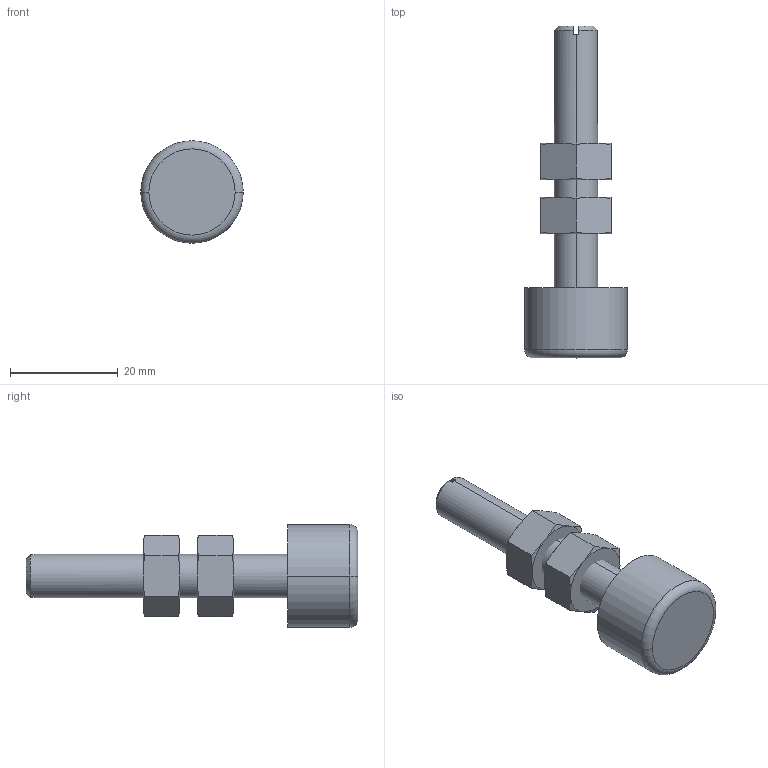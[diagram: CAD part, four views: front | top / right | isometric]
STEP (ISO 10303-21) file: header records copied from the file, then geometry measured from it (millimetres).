
FILE_DESCRIPTION (( 'STEP AP214' ), '1' );
FILE_NAME ('807-M8-56-B-NI.step', '2023-08-23T10:55:25', ( '' ), ( '' ), 'SwSTEP 2.0', 'SolidWorks 2022', '' );
FILE_SCHEMA (( 'AUTOMOTIVE_DESIGN' ));
Length unit declared in the file: millimetre
Products named in the file (3): WB807_Andrückschraube^WB807_M8-56-B; WB4032^WB807_M8; 807-M8-56-B-NI
Assembly tree (3 placements, depth 2):
  807-M8-56-B-NI
    WB807_Andrückschraube^WB807_M8-56-B
    WB4032^WB807_M8  x2
Bounding box: 19 x 61.5 x 19 mm (x, y, z)
Volume: 7508.2 mm3; surface area: 3978 mm2
Topology: 3 solids, 3 shells, 62 faces, 136 edges, 82 vertices
Faces by surface type: cone 26, plane 24, cylinder 10, torus 2
Entity records: 1608 total; most frequent: CARTESIAN_POINT 280, DIRECTION 190, ORIENTED_EDGE 176, EDGE_CURVE 88, AXIS2_PLACEMENT_3D 84, VERTEX_POINT 54, EDGE_LOOP 44, ADVANCED_FACE 40
